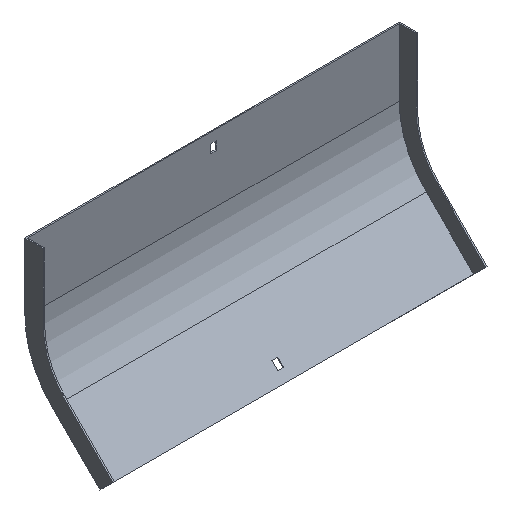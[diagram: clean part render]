
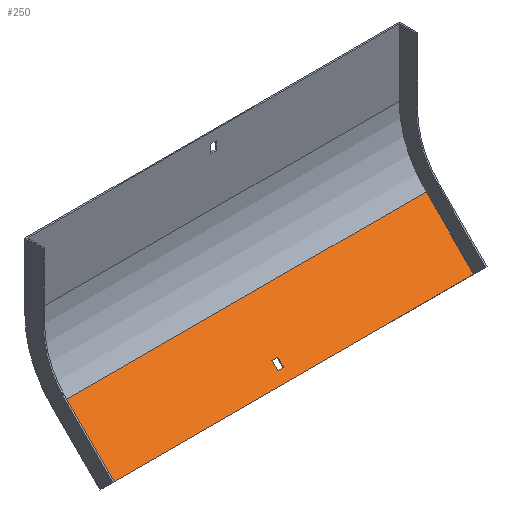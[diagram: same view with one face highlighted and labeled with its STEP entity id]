
A CAD part, isometric view. The second image highlights one B-rep face of the part: STEP entity #250.
In plain terms, the highlighted planar face has unit normal (0, -0.707, 0.707).
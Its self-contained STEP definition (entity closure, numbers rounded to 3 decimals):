
#6 = CARTESIAN_POINT ( 'NONE',  ( 203.5, -68.337, -181.358 ) ) ;
#22 = CARTESIAN_POINT ( 'NONE',  ( 203.5, -82.479, -195.5 ) ) ;
#28 = CARTESIAN_POINT ( 'NONE',  ( 203.5, -74.701, -187.722 ) ) ;
#48 = CARTESIAN_POINT ( 'NONE',  ( -202., -82.479, -195.5 ) ) ;
#57 = CARTESIAN_POINT ( 'NONE',  ( 203.5, -30.789, -143.811 ) ) ;
#78 = EDGE_LOOP ( 'NONE', ( #162, #677, #810, #758 ) ) ;
#80 = FACE_BOUND ( 'NONE', #602, .T. ) ;
#114 = EDGE_CURVE ( 'NONE', #588, #619, #854, .T. ) ;
#120 = VERTEX_POINT ( 'NONE', #307 ) ;
#137 = VERTEX_POINT ( 'NONE', #750 ) ;
#162 = ORIENTED_EDGE ( 'NONE', *, *, #366, .F. ) ;
#171 = DIRECTION ( 'NONE',  ( -1., 0., 0. ) ) ;
#190 = CARTESIAN_POINT ( 'NONE',  ( -3.25, -30.789, -143.811 ) ) ;
#195 = LINE ( 'NONE', #190, #486 ) ;
#250 = ADVANCED_FACE ( 'NONE', ( #654, #80 ), #814, .T. ) ;
#252 = CARTESIAN_POINT ( 'NONE',  ( 3.25, -74.701, -187.722 ) ) ;
#259 = EDGE_CURVE ( 'NONE', #616, #588, #598, .T. ) ;
#260 = VECTOR ( 'NONE', #480, 1000. ) ;
#277 = LINE ( 'NONE', #813, #448 ) ;
#282 = VERTEX_POINT ( 'NONE', #350 ) ;
#287 = ORIENTED_EDGE ( 'NONE', *, *, #114, .T. ) ;
#307 = CARTESIAN_POINT ( 'NONE',  ( 202., -30.789, -143.811 ) ) ;
#311 = EDGE_CURVE ( 'NONE', #619, #282, #357, .T. ) ;
#326 = CARTESIAN_POINT ( 'NONE',  ( -3.25, -68.337, -181.358 ) ) ;
#333 = DIRECTION ( 'NONE',  ( 0., -0.707, 0.707 ) ) ;
#349 = EDGE_CURVE ( 'NONE', #137, #568, #555, .T. ) ;
#350 = CARTESIAN_POINT ( 'NONE',  ( -3.25, -74.701, -187.722 ) ) ;
#353 = ORIENTED_EDGE ( 'NONE', *, *, #311, .T. ) ;
#357 = LINE ( 'NONE', #28, #753 ) ;
#366 = EDGE_CURVE ( 'NONE', #568, #507, #830, .T. ) ;
#397 = CARTESIAN_POINT ( 'NONE',  ( 3.25, -68.337, -181.358 ) ) ;
#416 = DIRECTION ( 'NONE',  ( 0., -0.707, -0.707 ) ) ;
#418 = AXIS2_PLACEMENT_3D ( 'NONE', #661, #333, #416 ) ;
#448 = VECTOR ( 'NONE', #461, 1000. ) ;
#461 = DIRECTION ( 'NONE',  ( 0., 0.707, 0.707 ) ) ;
#480 = DIRECTION ( 'NONE',  ( 1., 0., 0. ) ) ;
#486 = VECTOR ( 'NONE', #584, 1000. ) ;
#504 = ORIENTED_EDGE ( 'NONE', *, *, #259, .T. ) ;
#507 = VERTEX_POINT ( 'NONE', #543 ) ;
#518 = EDGE_CURVE ( 'NONE', #137, #120, #277, .T. ) ;
#526 = VECTOR ( 'NONE', #790, 1000. ) ;
#532 = LINE ( 'NONE', #57, #526 ) ;
#543 = CARTESIAN_POINT ( 'NONE',  ( -202., -30.789, -143.811 ) ) ;
#555 = LINE ( 'NONE', #22, #642 ) ;
#559 = DIRECTION ( 'NONE',  ( -1., 0., 0. ) ) ;
#568 = VERTEX_POINT ( 'NONE', #48 ) ;
#577 = EDGE_CURVE ( 'NONE', #282, #616, #195, .T. ) ;
#583 = DIRECTION ( 'NONE',  ( 0., -0.707, -0.707 ) ) ;
#584 = DIRECTION ( 'NONE',  ( 0., 0.707, 0.707 ) ) ;
#588 = VERTEX_POINT ( 'NONE', #397 ) ;
#598 = LINE ( 'NONE', #6, #260 ) ;
#602 = EDGE_LOOP ( 'NONE', ( #353, #831, #504, #287 ) ) ;
#616 = VERTEX_POINT ( 'NONE', #326 ) ;
#619 = VERTEX_POINT ( 'NONE', #252 ) ;
#625 = CARTESIAN_POINT ( 'NONE',  ( -202., -30.789, -143.811 ) ) ;
#629 = EDGE_CURVE ( 'NONE', #120, #507, #532, .T. ) ;
#642 = VECTOR ( 'NONE', #559, 1000. ) ;
#654 = FACE_OUTER_BOUND ( 'NONE', #78, .T. ) ;
#661 = CARTESIAN_POINT ( 'NONE',  ( 203.5, -30.789, -143.811 ) ) ;
#677 = ORIENTED_EDGE ( 'NONE', *, *, #349, .F. ) ;
#750 = CARTESIAN_POINT ( 'NONE',  ( 202., -82.479, -195.5 ) ) ;
#753 = VECTOR ( 'NONE', #171, 1000. ) ;
#758 = ORIENTED_EDGE ( 'NONE', *, *, #629, .T. ) ;
#760 = DIRECTION ( 'NONE',  ( 0., 0.707, 0.707 ) ) ;
#768 = VECTOR ( 'NONE', #760, 1000. ) ;
#790 = DIRECTION ( 'NONE',  ( -1., 0., 0. ) ) ;
#807 = VECTOR ( 'NONE', #583, 1000. ) ;
#810 = ORIENTED_EDGE ( 'NONE', *, *, #518, .T. ) ;
#813 = CARTESIAN_POINT ( 'NONE',  ( 202., -30.789, -143.811 ) ) ;
#814 = PLANE ( 'NONE',  #418 ) ;
#830 = LINE ( 'NONE', #625, #768 ) ;
#831 = ORIENTED_EDGE ( 'NONE', *, *, #577, .T. ) ;
#845 = CARTESIAN_POINT ( 'NONE',  ( 3.25, -30.789, -143.811 ) ) ;
#854 = LINE ( 'NONE', #845, #807 ) ;
